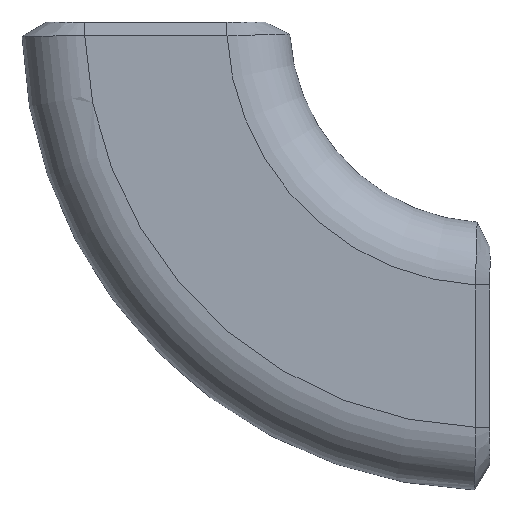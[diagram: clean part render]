
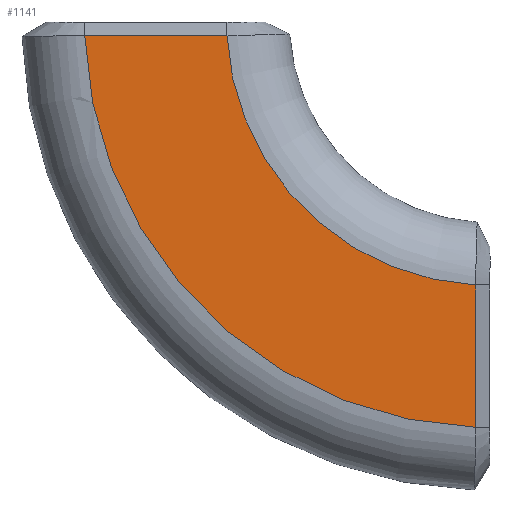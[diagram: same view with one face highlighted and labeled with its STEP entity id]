
A CAD part, left-side view. The second image highlights one B-rep face of the part: STEP entity #1141.
In plain terms, the highlighted planar face has unit normal (-1, 0, 0).
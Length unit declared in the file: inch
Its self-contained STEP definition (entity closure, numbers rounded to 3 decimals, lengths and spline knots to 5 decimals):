
#271=CARTESIAN_POINT('',(-1.,-2.39175,-3.02932));
#272=VERTEX_POINT('',#271);
#323=CARTESIAN_POINT('',(-1.,-2.39175,-1.96577));
#324=VERTEX_POINT('',#323);
#332=CARTESIAN_POINT('',(-1.,-2.39175,-1.96577));
#333=CARTESIAN_POINT('',(-1.,-2.39175,-2.31963));
#334=CARTESIAN_POINT('',(-1.,-2.39175,-2.67539));
#335=CARTESIAN_POINT('',(-1.,-2.39175,-3.02932));
#336=B_SPLINE_CURVE_WITH_KNOTS('',3,(#332,#333,#334,#335),.UNSPECIFIED.,.F.,.U.,(4,4),(-10.27114,-7.57048),.UNSPECIFIED.);
#337=EDGE_CURVE('',#324,#272,#336,.T.);
#517=CARTESIAN_POINT('',(-1.,-0.53387,-0.1016));
#518=VERTEX_POINT('',#517);
#530=CARTESIAN_POINT('',(-1.,-2.5,0.0));
#531=DIRECTION('',(-1.0,0.0,0.0));
#532=DIRECTION('',(0.0,1.0,0.0));
#533=AXIS2_PLACEMENT_3D('',#530,#531,#532);
#534=CIRCLE('',#533,1.96875);
#535=EDGE_CURVE('',#518,#324,#534,.T.);
#797=CARTESIAN_POINT('',(-1.0,0.52955,-0.1016));
#798=VERTEX_POINT('',#797);
#864=CARTESIAN_POINT('',(-1.,0.52955,-0.1016));
#865=CARTESIAN_POINT('',(-1.0,0.17566,-0.1016));
#866=CARTESIAN_POINT('',(-1.0,-0.18005,-0.1016));
#867=CARTESIAN_POINT('',(-1.,-0.53387,-0.1016));
#868=B_SPLINE_CURVE_WITH_KNOTS('',3,(#864,#865,#866,#867),.UNSPECIFIED.,.F.,.U.,(4,4),(3.82671,6.52705),.UNSPECIFIED.);
#869=EDGE_CURVE('',#798,#518,#868,.T.);
#1124=CARTESIAN_POINT('',(-1.0,0.,0.0));
#1125=DIRECTION('',(-1.0,0.0,0.0));
#1126=DIRECTION('',(0.0,0.0,1.0));
#1127=AXIS2_PLACEMENT_3D('',#1124,#1125,#1126);
#1128=PLANE('',#1127);
#1129=ORIENTED_EDGE('',*,*,#337,.F.);
#1130=ORIENTED_EDGE('',*,*,#535,.F.);
#1131=ORIENTED_EDGE('',*,*,#869,.F.);
#1132=CARTESIAN_POINT('',(-1.,-2.5,0.0));
#1133=DIRECTION('',(-1.0,0.0,0.0));
#1134=DIRECTION('',(0.0,1.0,0.0));
#1135=AXIS2_PLACEMENT_3D('',#1132,#1133,#1134);
#1136=CIRCLE('',#1135,3.03125);
#1137=EDGE_CURVE('',#798,#272,#1136,.T.);
#1138=ORIENTED_EDGE('',*,*,#1137,.T.);
#1139=EDGE_LOOP('',(#1129,#1130,#1131,#1138));
#1140=FACE_OUTER_BOUND('',#1139,.T.);
#1141=ADVANCED_FACE('',(#1140),#1128,.T.);
